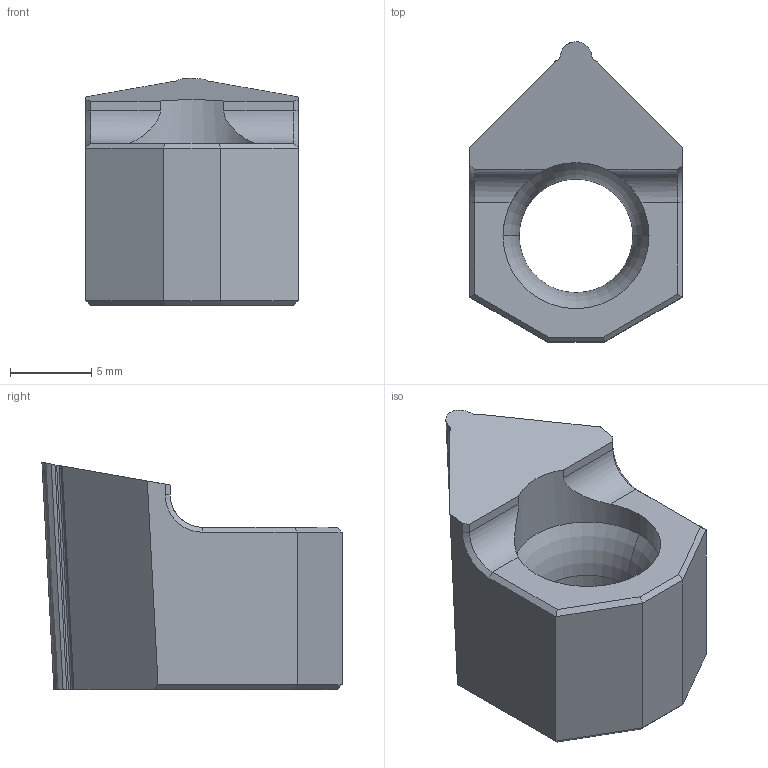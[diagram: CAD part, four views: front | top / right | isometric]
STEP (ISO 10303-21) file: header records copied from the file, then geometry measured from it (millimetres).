
FILE_DESCRIPTION (( 'STEP AP214' ), '1' );
FILE_NAME ('IN-PG3-57_140.STEP', '2023-07-22T09:19:01', ( 'Paolo' ), ( '' ), 'SwSTEP 2.0', 'SolidWorks 2020', '' );
FILE_SCHEMA (( 'AUTOMOTIVE_DESIGN' ));
Length unit declared in the file: millimetre
Products named in the file (1): IN-PG3-57_140
Bounding box: 13.1 x 18.5 x 14 mm (x, y, z)
Volume: 1556.6 mm3; surface area: 1101.9 mm2
Topology: 1 solids, 1 shells, 48 faces, 123 edges, 76 vertices
Faces by surface type: plane 24, bspline 12, cylinder 6, cone 4, torus 2
Entity records: 1574 total; most frequent: CARTESIAN_POINT 467, ORIENTED_EDGE 246, DIRECTION 187, EDGE_CURVE 123, LINE 79, VECTOR 79, VERTEX_POINT 76, AXIS2_PLACEMENT_3D 54
